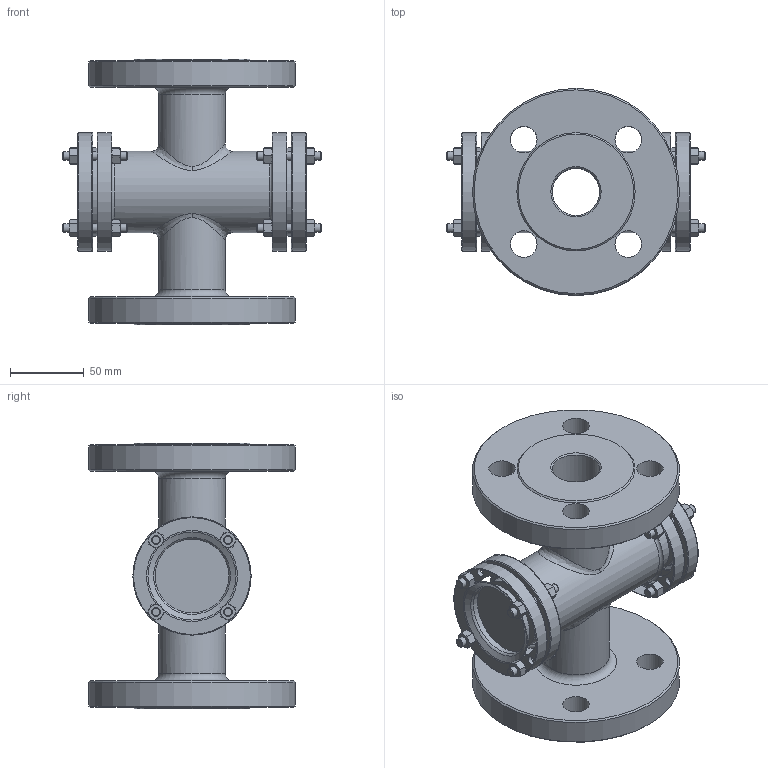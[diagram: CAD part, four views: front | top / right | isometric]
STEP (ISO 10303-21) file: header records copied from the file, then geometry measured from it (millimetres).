
FILE_DESCRIPTION(('STEP AP242'), '1');
FILE_NAME('SG2-32S-F Ñòåêëî ñìîòðîâîå DN.ru Äó32 Ðó40', '', ('UNSPECIFIED'), ('UNSPECIFIED'), 'C3D Converter', 'C3D Toolkit', '');
FILE_SCHEMA(('AP242_MANAGED_MODEL_BASED_3D_ENGINEERING_MIM_LF { 1 0 10303 442 1 1 4 }'));
Length unit declared in the file: millimetre
Products named in the file (1): SG2-32S-F
Bounding box: 175 x 140 x 180 mm (x, y, z)
Volume: 768486.7 mm3; surface area: 181115.7 mm2
Topology: 1 solids, 1 shells, 523 faces, 1223 edges, 736 vertices
Faces by surface type: cone 218, plane 203, cylinder 55, bspline 31, torus 16
Full cylindrical faces by diameter (mm): 6 x24, 18 x8, 32 x2, 45 x2, 50 x3, 55 x1, 60 x2, 80 x4, 140 x2
Entity records: 30997 total; most frequent: CARTESIAN_POINT 18319, ORIENTED_EDGE 2254, DIRECTION 2122, EDGE_CURVE 1127, AXIS2_PLACEMENT_3D 968, VERTEX_POINT 731, EDGE_LOOP 682, FACE_BOUND 576
